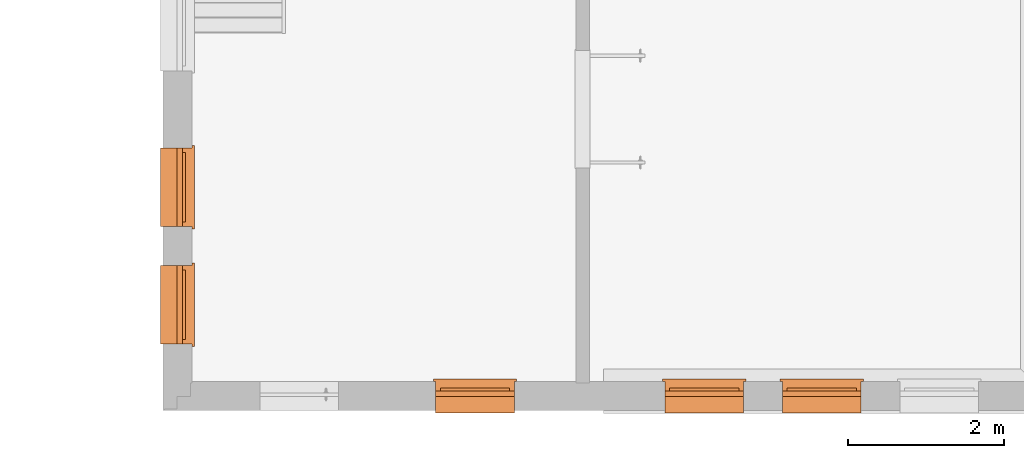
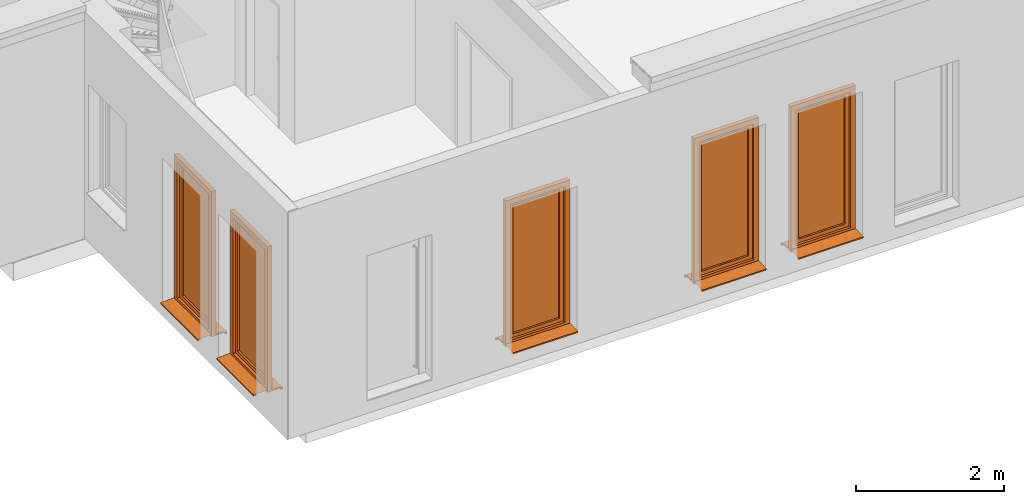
# One storey, part 13 of 28: 5 proxies.
"""IFC4 building model written with IfcOpenShell, lengths in metres."""

from ifc_helpers import new_model, entity, si_unit, converted_unit, derived_unit, direction, frame, origin_with_axes, place, context, subcontext, project, spatial, triangles, source, transform, mapped, type_object, element, save


model = new_model("IFC4")

# Units and contexts
model_context = context("Model", 3, precision=1e-05, world=origin_with_axes(), true_north=direction((-0.526213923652, 0.850352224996)))
body_context = subcontext(model_context, "Body", "Model", "MODEL_VIEW")
ifc_project = project(units=[si_unit("LENGTHUNIT", "METRE"), si_unit("AREAUNIT", "SQUARE_METRE"), si_unit("VOLUMEUNIT", "CUBIC_METRE"), converted_unit("PLANEANGLEUNIT", "DEGREE", entity("IfcPlaneAngleMeasure", 0.0174532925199), si_unit("PLANEANGLEUNIT", "RADIAN"), dimensions=[0, 0, 0, 0, 0, 0, 0]), si_unit("SOLIDANGLEUNIT", "STERADIAN"), converted_unit("TIMEUNIT", "Year", entity("IfcTimeMeasure", 31556926.0), si_unit("TIMEUNIT", "SECOND"), dimensions=[0, 0, 1, 0, 0, 0, 0]), si_unit("MASSUNIT", "GRAM", prefix="KILO"), si_unit("THERMODYNAMICTEMPERATUREUNIT", "DEGREE_CELSIUS"), si_unit("LUMINOUSINTENSITYUNIT", "LUMEN"), si_unit("ENERGYUNIT", "JOULE", prefix="MEGA"), derived_unit("THERMALCONDUCTANCEUNIT", [(si_unit("POWERUNIT", "WATT"), 1), (si_unit("LENGTHUNIT", "METRE"), -1), (si_unit("THERMODYNAMICTEMPERATUREUNIT", "KELVIN"), -1)]), derived_unit("SPECIFICHEATCAPACITYUNIT", [(si_unit("ENERGYUNIT", "JOULE"), 1), (si_unit("MASSUNIT", "GRAM", prefix="KILO"), -1), (si_unit("THERMODYNAMICTEMPERATUREUNIT", "KELVIN"), -1)]), derived_unit("MASSDENSITYUNIT", [(si_unit("MASSUNIT", "GRAM", prefix="KILO"), 1), (si_unit("VOLUMEUNIT", "CUBIC_METRE"), -1)])], contexts=[model_context])

# Site, building, storey
site_placement = place(None, origin_with_axes())
site = spatial("IfcSite", under=ifc_project, at=site_placement, Name="Gelände", CompositionType="ELEMENT")
building_placement = place(site_placement, origin_with_axes())
building = spatial("IfcBuilding", under=site, at=building_placement, Name="Haus vom Nikolaus", CompositionType="ELEMENT")
storey_placement = place(building_placement, origin_with_axes())
storey = spatial("IfcBuildingStorey", under=building, at=storey_placement, Name="EG", CompositionType="ELEMENT", Elevation=0.0)

# Proxies
building_element_proxy_type = type_object("IfcBuildingElementProxyType", Name="1-Flügelfenster 22", PredefinedType="NOTDEFINED")
shared_shape_1 = source(origin_with_axes(), body_context, "Body", "Tessellation", [
    triangles([(-0.505, -0.071, 0.04), (0.505, -0.071, 0.05), (-0.505, -0.071, 0.05), (0.505, -0.071, 0.04), (-0.505, -0.28, 0.0283333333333), (0.505, -0.28, 0.0283333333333), (-0.505, -0.28, 0.00833333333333), (0.505, -0.28, 0.00833333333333), (-0.505, -0.27, 0.0183333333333), (0.505, -0.27, 0.0183333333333)], [[1, 2, 3], [1, 4, 2], [5, 4, 1], [5, 6, 4], [7, 6, 5], [7, 8, 6], [9, 8, 7], [9, 10, 8]], closed=False),
    triangles([(-0.505, 0.125, 0.0), (-0.505, 0.0, 0.025), (-0.505, 0.125, 0.025), (-0.505, 0.0, 0.0), (0.505, 0.0, 0.0), (0.505, 0.0, 0.025), (-0.535, 0.155, 0.025), (0.505, 0.125, 0.025), (0.535, 0.155, 0.025), (0.535, 0.125, 0.025), (-0.535, 0.125, 0.025), (-0.535, 0.125, 0.0), (-0.535, 0.155, 0.0), (0.505, 0.125, 0.0), (0.535, 0.155, 0.0), (0.535, 0.125, 0.0)], [[1, 2, 3], [2, 1, 4], [2, 5, 6], [2, 4, 5], [7, 8, 9], [8, 2, 6], [9, 8, 10], [11, 3, 7], [3, 2, 8], [7, 3, 8], [11, 1, 3], [11, 12, 1], [12, 13, 1], [14, 1, 15], [15, 1, 13], [14, 5, 4], [14, 15, 16], [1, 14, 4], [6, 14, 8], [6, 5, 14], [8, 16, 10], [8, 14, 16], [10, 15, 9], [10, 16, 15], [9, 13, 7], [9, 15, 13], [13, 11, 7], [11, 13, 12]], closed=True),
    triangles([(0.425, 0.0, 0.08), (0.505, -0.07, 0.0), (0.425, -0.07, 0.08), (0.505, 0.0, 0.0), (0.505, -0.07, 2.4), (0.425, -0.07, 2.32), (0.425, 0.0, 2.32), (0.505, 0.0, 2.4)], [[1, 2, 3], [1, 4, 2], [3, 5, 6], [5, 3, 2], [7, 3, 6], [7, 1, 3], [8, 4, 7], [7, 4, 1], [4, 5, 2], [4, 8, 5], [8, 6, 5], [8, 7, 6]], closed=True),
    triangles([(-0.505, 0.0, 2.4), (-0.505, -0.07, 0.0), (-0.505, -0.07, 2.4), (-0.505, 0.0, 0.0), (-0.425, -0.07, 2.32), (-0.425, -0.07, 0.08), (-0.425, 0.0, 2.32), (-0.425, 0.0, 0.08)], [[1, 2, 3], [1, 4, 2], [3, 2, 5], [5, 2, 6], [1, 5, 7], [5, 1, 3], [8, 1, 7], [1, 8, 4], [4, 6, 2], [4, 8, 6], [8, 5, 6], [8, 7, 5]], closed=True),
    triangles([(-0.505, 0.0, 0.0), (0.505, -0.07, 0.0), (-0.505, -0.07, 0.0), (0.505, 0.0, 0.0), (0.0, -0.07, 0.08), (0.425, -0.07, 0.08), (-0.425, -0.07, 0.08), (-0.425, 0.0, 0.08), (0.0, 0.0, 0.08), (0.425, 0.0, 0.08)], [[1, 2, 3], [1, 4, 2], [3, 2, 5], [5, 2, 6], [3, 5, 7], [8, 3, 7], [8, 1, 3], [9, 1, 8], [10, 4, 9], [1, 9, 4], [10, 2, 4], [2, 10, 6], [10, 5, 6], [10, 9, 5], [9, 7, 5], [9, 8, 7]], closed=True),
    triangles([(0.425, 0.0, 2.32), (0.505, -0.07, 2.4), (0.425, -0.07, 2.32), (0.505, 0.0, 2.4), (0.0, -0.07, 2.32), (-0.505, -0.07, 2.4), (-0.425, -0.07, 2.32), (0.0, 0.0, 2.32), (-0.505, 0.0, 2.4), (-0.425, 0.0, 2.32)], [[1, 2, 3], [1, 4, 2], [5, 6, 7], [3, 2, 5], [6, 5, 2], [8, 3, 5], [8, 1, 3], [9, 4, 8], [8, 4, 1], [9, 8, 10], [4, 6, 2], [4, 9, 6], [9, 7, 6], [9, 10, 7], [10, 5, 7], [10, 8, 5]], closed=True),
    triangles([(0.365, 0.04, 0.14), (0.445, 0.0, 0.06), (0.365, 0.0, 0.14), (0.445, 0.04, 0.06), (0.365, 0.0, 2.26), (0.445, 0.0, 2.34), (0.365, 0.04, 2.26), (0.445, 0.04, 2.34)], [[1, 2, 3], [1, 4, 2], [5, 2, 6], [5, 3, 2], [7, 3, 5], [7, 1, 3], [8, 4, 7], [7, 4, 1], [4, 6, 2], [4, 8, 6], [8, 5, 6], [8, 7, 5]], closed=True),
    triangles([(-0.365, 0.04, 0.14), (-0.445, 0.0, 0.06), (-0.445, 0.04, 0.06), (-0.365, 0.0, 0.14), (-0.445, 0.0, 2.34), (-0.445, 0.04, 2.34), (-0.365, 0.04, 2.26), (-0.365, 0.0, 2.26)], [[1, 2, 3], [1, 4, 2], [3, 5, 6], [3, 2, 5], [7, 3, 6], [7, 1, 3], [7, 4, 1], [7, 8, 4], [5, 2, 8], [8, 2, 4], [6, 8, 7], [6, 5, 8]], closed=True),
    triangles([(-0.445, 0.04, 0.06), (0.445, 0.0, 0.06), (-0.445, 0.0, 0.06), (0.445, 0.04, 0.06), (-0.365, 0.0, 0.14), (0.365, 0.0, 0.14), (-0.365, 0.04, 0.14), (0.365, 0.04, 0.14)], [[1, 2, 3], [1, 4, 2], [3, 2, 5], [5, 2, 6], [7, 3, 5], [7, 1, 3], [8, 1, 7], [1, 8, 4], [4, 6, 2], [4, 8, 6], [8, 5, 6], [8, 7, 5]], closed=True),
    triangles([(-0.445, 0.04, 2.34), (0.445, 0.0, 2.34), (0.445, 0.04, 2.34), (-0.445, 0.0, 2.34), (0.365, 0.0, 2.26), (0.365, 0.04, 2.26), (-0.365, 0.04, 2.26), (-0.365, 0.0, 2.26)], [[1, 2, 3], [1, 4, 2], [3, 5, 6], [3, 2, 5], [1, 3, 7], [7, 3, 6], [7, 4, 1], [7, 8, 4], [8, 2, 4], [8, 5, 2], [6, 8, 7], [6, 5, 8]], closed=True),
    triangles([(0.365, 0.0, 0.14), (0.425, -0.03, 0.08), (0.365, -0.03, 0.14), (0.425, 0.0, 0.08), (0.365, -0.03, 2.26), (0.425, -0.03, 2.32), (0.365, 0.0, 2.26), (0.425, 0.0, 2.32)], [[1, 2, 3], [1, 4, 2], [5, 2, 6], [5, 3, 2], [7, 3, 5], [7, 1, 3], [1, 8, 4], [8, 1, 7], [4, 6, 2], [4, 8, 6], [8, 5, 6], [8, 7, 5]], closed=True),
    triangles([(-0.365, 0.0, 0.14), (-0.425, -0.03, 0.08), (-0.425, 0.0, 0.08), (-0.365, -0.03, 0.14), (-0.425, -0.03, 2.32), (-0.425, 0.0, 2.32), (-0.365, 0.0, 2.26), (-0.365, -0.03, 2.26)], [[1, 2, 3], [1, 4, 2], [3, 5, 6], [3, 2, 5], [7, 3, 6], [7, 1, 3], [7, 4, 1], [7, 8, 4], [4, 5, 2], [5, 4, 8], [6, 8, 7], [6, 5, 8]], closed=True),
    triangles([(-0.425, 0.0, 0.08), (0.425, -0.03, 0.08), (-0.425, -0.03, 0.08), (0.425, 0.0, 0.08), (0.365, -0.03, 0.14), (-0.365, -0.03, 0.14), (-0.365, 0.0, 0.14), (0.365, 0.0, 0.14)], [[1, 2, 3], [1, 4, 2], [5, 3, 2], [3, 5, 6], [7, 3, 6], [7, 1, 3], [8, 1, 7], [1, 8, 4], [4, 5, 2], [4, 8, 5], [8, 6, 5], [8, 7, 6]], closed=True),
    triangles([(-0.425, 0.0, 2.32), (0.425, -0.03, 2.32), (0.425, 0.0, 2.32), (-0.425, -0.03, 2.32), (0.365, -0.03, 2.26), (0.365, 0.0, 2.26), (-0.365, 0.0, 2.26), (-0.365, -0.03, 2.26)], [[1, 2, 3], [1, 4, 2], [3, 5, 6], [3, 2, 5], [1, 3, 7], [7, 3, 6], [7, 4, 1], [7, 8, 4], [8, 2, 4], [8, 5, 2], [6, 8, 7], [6, 5, 8]], closed=True),
    triangles([(-0.365, 0.01, 0.14), (0.365, 0.0, 0.14), (-0.365, 0.0, 0.14), (0.365, 0.01, 0.14), (-0.365, 0.0, 2.26), (0.365, 0.0, 2.26), (-0.365, 0.01, 2.26), (0.365, 0.01, 2.26)], [[1, 2, 3], [1, 4, 2], [5, 2, 6], [5, 3, 2], [7, 3, 5], [7, 1, 3], [7, 4, 1], [7, 8, 4], [4, 6, 2], [4, 8, 6], [8, 5, 6], [8, 7, 5]], closed=True),
])
for number, where, z_axis, x_axis, name in (
    (1, (0.259842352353, 3.25983212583, 0.2), (0.0, 0.0, 1.0), (5.17545230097e-05, -0.999999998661, 0.0), "Fenster-008"),
    (2, (3.38999761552, 0.259832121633, 0.2), (0.0, 0.0, 1.0), (1.0, 0.0, 0.0), "Fenster-011"),
    (3, (6.33499761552, 0.259832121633, 0.2), (0.0, 0.0, 1.0), (1.0, 0.0, 0.0), "Fenster-012"),
    (4, (7.84499761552, 0.259832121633, 0.2), (0.0, 0.0, 1.0), (1.0, 0.0, 0.0), "Fenster-013"),
):
    element("IfcBuildingElementProxy", number, at=place(storey_placement, frame(where, z_axis=z_axis, x_axis=x_axis)), inside=storey, type_object=building_element_proxy_type, Name=name, PredefinedType="NOTDEFINED", context=body_context, shape_type="MappedRepresentation", body=[
        mapped(shared_shape_1, transform((0.505, -0.125, 0.0))),
    ])
shared_shape_2 = source(origin_with_axes(), body_context, "Body", "Tessellation", [
    triangles([(0.505, -0.071, 0.04), (-0.505, -0.071, 0.05), (-0.505, -0.071, 0.04), (0.505, -0.071, 0.05), (0.505, -0.28, 0.0283333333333), (-0.505, -0.28, 0.0283333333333), (0.505, -0.28, 0.00833333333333), (-0.505, -0.28, 0.00833333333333), (0.505, -0.27, 0.0183333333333), (-0.505, -0.27, 0.0183333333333)], [[1, 2, 3], [1, 4, 2], [5, 3, 6], [5, 1, 3], [7, 6, 8], [7, 5, 6], [9, 8, 10], [9, 7, 8]], closed=False),
    triangles([(0.505, 0.125, 0.025), (0.505, 0.0, 0.0), (0.505, 0.125, 0.0), (0.505, 0.0, 0.025), (0.535, 0.155, 0.0), (-0.505, 0.125, 0.0), (-0.535, 0.155, 0.0), (-0.505, 0.0, 0.0), (-0.535, 0.125, 0.0), (0.535, 0.125, 0.0), (0.535, 0.125, 0.025), (0.535, 0.155, 0.025), (-0.505, 0.125, 0.025), (-0.535, 0.155, 0.025), (-0.505, 0.0, 0.025), (-0.535, 0.125, 0.025)], [[1, 2, 3], [1, 4, 2], [5, 6, 7], [6, 2, 8], [7, 6, 9], [10, 3, 5], [3, 2, 6], [5, 3, 6], [11, 3, 10], [11, 1, 3], [11, 12, 1], [13, 1, 14], [14, 1, 12], [13, 15, 4], [13, 14, 16], [1, 13, 4], [4, 8, 2], [4, 15, 8], [15, 6, 8], [15, 13, 6], [13, 9, 6], [13, 16, 9], [16, 7, 9], [16, 14, 7], [14, 5, 7], [14, 12, 5], [11, 5, 12], [5, 11, 10]], closed=True),
    triangles([(-0.425, 0.0, 0.08), (-0.505, -0.07, 0.0), (-0.505, 0.0, 0.0), (-0.425, -0.07, 0.08), (-0.505, -0.07, 2.4), (-0.505, 0.0, 2.4), (-0.425, 0.0, 2.32), (-0.425, -0.07, 2.32)], [[1, 2, 3], [1, 4, 2], [3, 5, 6], [3, 2, 5], [1, 6, 7], [6, 1, 3], [7, 4, 1], [7, 8, 4], [5, 2, 8], [8, 2, 4], [6, 8, 7], [6, 5, 8]], closed=True),
    triangles([(0.505, 0.0, 2.4), (0.505, -0.07, 0.0), (0.505, 0.0, 0.0), (0.505, -0.07, 2.4), (0.425, 0.0, 0.08), (0.425, -0.07, 0.08), (0.425, 0.0, 2.32), (0.425, -0.07, 2.32)], [[1, 2, 3], [1, 4, 2], [2, 5, 3], [5, 2, 6], [1, 3, 7], [7, 3, 5], [7, 4, 1], [7, 8, 4], [6, 4, 8], [4, 6, 2], [5, 8, 7], [5, 6, 8]], closed=True),
    triangles([(0.505, 0.0, 0.0), (-0.505, -0.07, 0.0), (-0.505, 0.0, 0.0), (0.505, -0.07, 0.0), (-0.425, -0.07, 0.08), (-0.425, 0.0, 0.08), (0.0, 0.0, 0.08), (0.425, 0.0, 0.08), (0.425, -0.07, 0.08), (0.0, -0.07, 0.08)], [[1, 2, 3], [1, 4, 2], [3, 5, 6], [3, 2, 5], [1, 3, 7], [7, 3, 6], [1, 7, 8], [8, 4, 1], [8, 9, 4], [10, 4, 9], [5, 2, 10], [4, 10, 2], [6, 10, 7], [6, 5, 10], [7, 9, 8], [7, 10, 9]], closed=True),
    triangles([(-0.425, -0.07, 2.32), (-0.505, 0.0, 2.4), (-0.425, 0.0, 2.32), (-0.505, -0.07, 2.4), (0.505, -0.07, 2.4), (0.505, 0.0, 2.4), (0.0, 0.0, 2.32), (0.425, 0.0, 2.32), (0.0, -0.07, 2.32), (0.425, -0.07, 2.32)], [[1, 2, 3], [2, 1, 4], [2, 5, 6], [2, 4, 5], [7, 6, 8], [3, 2, 7], [6, 7, 2], [7, 1, 3], [7, 9, 1], [5, 4, 9], [9, 4, 1], [5, 9, 10], [6, 10, 8], [6, 5, 10], [8, 9, 7], [8, 10, 9]], closed=True),
    triangles([(-0.365, 0.04, 0.14), (-0.445, 0.0, 0.06), (-0.445, 0.04, 0.06), (-0.365, 0.0, 0.14), (-0.445, 0.0, 2.34), (-0.445, 0.04, 2.34), (-0.365, 0.04, 2.26), (-0.365, 0.0, 2.26)], [[1, 2, 3], [1, 4, 2], [3, 5, 6], [3, 2, 5], [7, 3, 6], [7, 1, 3], [7, 4, 1], [7, 8, 4], [5, 2, 8], [8, 2, 4], [6, 8, 7], [6, 5, 8]], closed=True),
    triangles([(0.365, 0.04, 0.14), (0.445, 0.0, 0.06), (0.365, 0.0, 0.14), (0.445, 0.04, 0.06), (0.365, 0.0, 2.26), (0.445, 0.0, 2.34), (0.365, 0.04, 2.26), (0.445, 0.04, 2.34)], [[1, 2, 3], [1, 4, 2], [5, 2, 6], [5, 3, 2], [7, 3, 5], [7, 1, 3], [8, 4, 7], [7, 4, 1], [4, 6, 2], [4, 8, 6], [8, 5, 6], [8, 7, 5]], closed=True),
    triangles([(0.445, 0.04, 0.06), (-0.445, 0.0, 0.06), (-0.445, 0.04, 0.06), (0.445, 0.0, 0.06), (-0.365, 0.0, 0.14), (-0.365, 0.04, 0.14), (0.365, 0.04, 0.14), (0.365, 0.0, 0.14)], [[1, 2, 3], [1, 4, 2], [3, 5, 6], [3, 2, 5], [1, 3, 7], [7, 3, 6], [7, 4, 1], [7, 8, 4], [5, 4, 8], [4, 5, 2], [6, 8, 7], [6, 5, 8]], closed=True),
    triangles([(0.445, 0.04, 2.34), (-0.445, 0.0, 2.34), (0.445, 0.0, 2.34), (-0.445, 0.04, 2.34), (0.365, 0.0, 2.26), (-0.365, 0.0, 2.26), (0.365, 0.04, 2.26), (-0.365, 0.04, 2.26)], [[1, 2, 3], [1, 4, 2], [3, 2, 5], [5, 2, 6], [7, 3, 5], [7, 1, 3], [7, 4, 1], [7, 8, 4], [8, 2, 4], [2, 8, 6], [8, 5, 6], [8, 7, 5]], closed=True),
    triangles([(-0.365, 0.0, 0.14), (-0.425, -0.03, 0.08), (-0.425, 0.0, 0.08), (-0.365, -0.03, 0.14), (-0.425, -0.03, 2.32), (-0.425, 0.0, 2.32), (-0.365, 0.0, 2.26), (-0.365, -0.03, 2.26)], [[1, 2, 3], [1, 4, 2], [3, 5, 6], [3, 2, 5], [7, 3, 6], [7, 1, 3], [7, 4, 1], [7, 8, 4], [4, 5, 2], [5, 4, 8], [6, 8, 7], [6, 5, 8]], closed=True),
    triangles([(0.365, 0.0, 0.14), (0.425, -0.03, 0.08), (0.365, -0.03, 0.14), (0.425, 0.0, 0.08), (0.365, -0.03, 2.26), (0.425, -0.03, 2.32), (0.365, 0.0, 2.26), (0.425, 0.0, 2.32)], [[1, 2, 3], [1, 4, 2], [5, 2, 6], [5, 3, 2], [7, 3, 5], [7, 1, 3], [1, 8, 4], [8, 1, 7], [4, 6, 2], [4, 8, 6], [8, 5, 6], [8, 7, 5]], closed=True),
    triangles([(0.425, 0.0, 0.08), (-0.425, -0.03, 0.08), (-0.425, 0.0, 0.08), (0.425, -0.03, 0.08), (-0.365, -0.03, 0.14), (-0.365, 0.0, 0.14), (0.365, 0.0, 0.14), (0.365, -0.03, 0.14)], [[1, 2, 3], [1, 4, 2], [3, 5, 6], [3, 2, 5], [6, 1, 3], [1, 6, 7], [7, 4, 1], [7, 8, 4], [5, 4, 8], [4, 5, 2], [6, 8, 7], [6, 5, 8]], closed=True),
    triangles([(0.425, 0.0, 2.32), (-0.425, -0.03, 2.32), (0.425, -0.03, 2.32), (-0.425, 0.0, 2.32), (0.365, -0.03, 2.26), (-0.365, -0.03, 2.26), (0.365, 0.0, 2.26), (-0.365, 0.0, 2.26)], [[1, 2, 3], [1, 4, 2], [3, 2, 5], [5, 2, 6], [7, 3, 5], [7, 1, 3], [7, 4, 1], [7, 8, 4], [4, 6, 2], [4, 8, 6], [8, 5, 6], [8, 7, 5]], closed=True),
    triangles([(0.365, 0.01, 0.14), (-0.365, 0.0, 0.14), (-0.365, 0.01, 0.14), (0.365, 0.0, 0.14), (-0.365, 0.0, 2.26), (-0.365, 0.01, 2.26), (0.365, 0.01, 2.26), (0.365, 0.0, 2.26)], [[1, 2, 3], [1, 4, 2], [3, 5, 6], [3, 2, 5], [7, 3, 6], [7, 1, 3], [7, 4, 1], [7, 8, 4], [8, 2, 4], [8, 5, 2], [6, 8, 7], [6, 5, 8]], closed=True),
])
proxy_placement = place(storey_placement, frame((0.259920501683, 1.74983212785, 0.2), z_axis=(0.0, 0.0, 1.0), x_axis=(5.17545230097e-05, -0.999999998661, 0.0)))
element("IfcBuildingElementProxy", 5, at=proxy_placement, inside=storey, type_object=building_element_proxy_type, Name="Fenster-009", PredefinedType="NOTDEFINED", context=body_context, shape_type="MappedRepresentation", body=[
    mapped(shared_shape_2, transform((0.505, -0.125, 0.0))),
])

save(model, "model.ifc")
